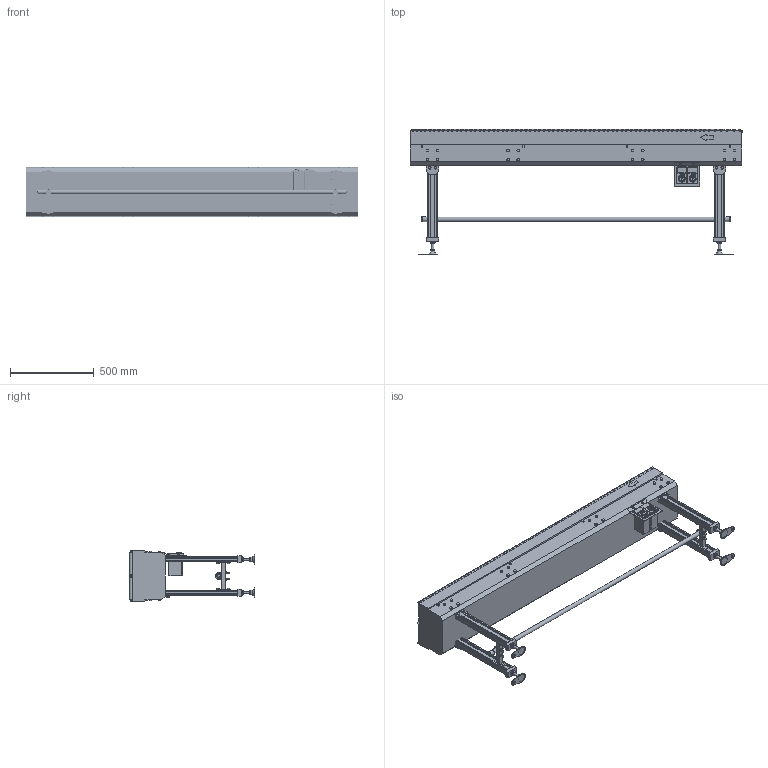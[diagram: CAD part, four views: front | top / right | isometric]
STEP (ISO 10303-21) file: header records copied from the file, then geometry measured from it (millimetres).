
FILE_DESCRIPTION (( 'STEP AP214' ), '1' );
FILE_NAME ('GA22-304x2-200-200-DC-7.5.STEP', '2024-08-08T23:26:18', ( '' ), ( '' ), 'SwSTEP 2.0', 'SolidWorks 2017', '' );
FILE_SCHEMA (( 'AUTOMOTIVE_DESIGN' ));
Length unit declared in the file: millimetre
Products named in the file (1): GA22-304x2-200-200-DC-7.5
Bounding box: 1985 x 750 x 304.35 mm (x, y, z)
Volume: 125350248.8 mm3; surface area: 4752175.8 mm2
Topology: 19 solids, 19 shells, 3015 faces, 7524 edges, 4994 vertices
Faces by surface type: plane 2070, cylinder 911, cone 18, torus 16
Full cylindrical faces by diameter (mm): 4.5 x8, 6 x142, 7 x4, 8 x284, 8.723 x8, 12.2 x2, 13 x4, 15.4 x48, 16 x8, 17 x12, 25.4 x1, 28.4 x2, 29.825 x2, 30 x4
Entity records: 117994 total; most frequent: CARTESIAN_POINT 17271, DIRECTION 13583, ORIENTED_EDGE 13314, EDGE_CURVE 6657, VERTEX_POINT 4682, AXIS2_PLACEMENT_3D 4620, VECTOR 4343, LINE 4343
